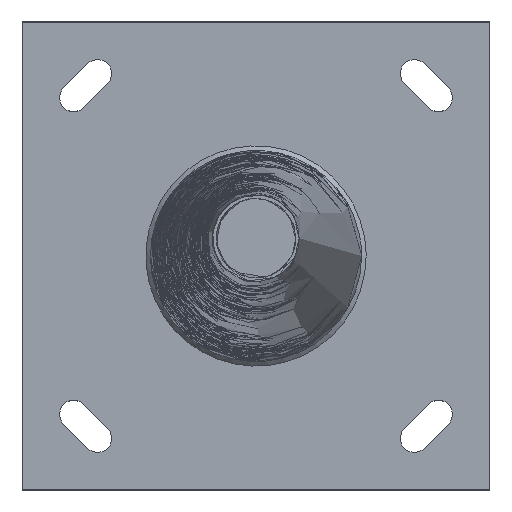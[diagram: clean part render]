
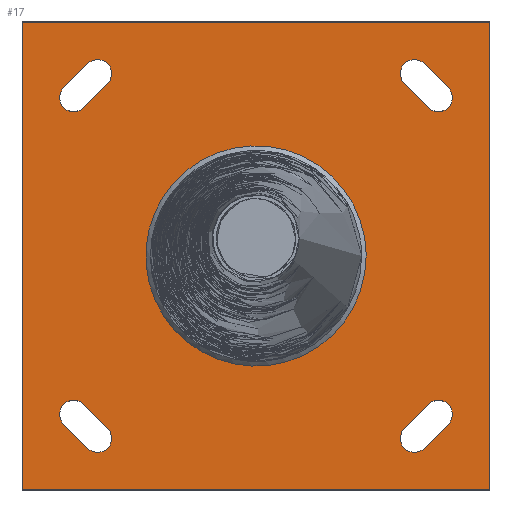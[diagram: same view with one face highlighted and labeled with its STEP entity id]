
A CAD part, top view. The second image highlights one B-rep face of the part: STEP entity #17.
In plain terms, the highlighted planar face has unit normal (0, 0, 1).
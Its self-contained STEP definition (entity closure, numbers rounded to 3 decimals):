
#17 = ADVANCED_FACE('',(#18,#57,#91,#127,#163,#199),#235,.T.);
#18 = FACE_BOUND('',#19,.T.);
#19 = EDGE_LOOP('',(#20));
#20 = ORIENTED_EDGE('',*,*,#21,.T.);
#21 = EDGE_CURVE('',#22,#22,#24,.T.);
#22 = VERTEX_POINT('',#23);
#23 = CARTESIAN_POINT('',(96.969,0.,5.));
#24 = B_SPLINE_CURVE_WITH_KNOTS('',11,(#25,#26,#27,#28,#29,#30,#31,#32,
    #33,#34,#35,#36,#37,#38,#39,#40,#41,#42,#43,#44,#45,#46,#47,#48,#49,
    #50,#51,#52,#53,#54,#55,#56),.UNSPECIFIED.,.T.,.F.,(12,10,10,12),(
    0.,146.094,292.131,584.144),
  .UNSPECIFIED.);
#25 = CARTESIAN_POINT('',(96.969,0.,5.));
#26 = CARTESIAN_POINT('',(96.969,-13.853,5.));
#27 = CARTESIAN_POINT('',(94.793,-27.706,5.)
  );
#28 = CARTESIAN_POINT('',(90.439,-41.177,5.
    ));
#29 = CARTESIAN_POINT('',(83.983,-53.895,5.)
  );
#30 = CARTESIAN_POINT('',(75.574,-65.475,5.
    ));
#31 = CARTESIAN_POINT('',(65.432,-75.619,5.
    ));
#32 = CARTESIAN_POINT('',(53.838,-84.015,5.
    ));
#33 = CARTESIAN_POINT('',(41.121,-90.466,5.
    ));
#34 = CARTESIAN_POINT('',(27.646,-94.81,5.
    ));
#35 = CARTESIAN_POINT('',(13.792,-96.978,5.));
#36 = CARTESIAN_POINT('',(-13.908,-96.961,5.));
#37 = CARTESIAN_POINT('',(-27.754,-94.777,5.
    ));
#38 = CARTESIAN_POINT('',(-41.219,-90.418,5.
    ));
#39 = CARTESIAN_POINT('',(-53.923,-83.959,5.
    ));
#40 = CARTESIAN_POINT('',(-65.504,-75.55,5.
    ));
#41 = CARTESIAN_POINT('',(-75.632,-65.409,5.)
  );
#42 = CARTESIAN_POINT('',(-84.027,-53.817,5.
    ));
#43 = CARTESIAN_POINT('',(-90.47,-41.105,5.
    ));
#44 = CARTESIAN_POINT('',(-94.812,-27.635,5.)
  );
#45 = CARTESIAN_POINT('',(-96.978,-13.786,5.));
#46 = CARTESIAN_POINT('',(-96.952,27.75,5.));
#47 = CARTESIAN_POINT('',(-88.238,55.433,5.
    ));
#48 = CARTESIAN_POINT('',(-70.828,80.076,5.
    ));
#49 = CARTESIAN_POINT('',(-45.917,98.643,5.)
  );
#50 = CARTESIAN_POINT('',(-15.889,108.638,5.
    ));
#51 = CARTESIAN_POINT('',(15.958,108.627,5.)
  );
#52 = CARTESIAN_POINT('',(45.98,98.614,5.)
  );
#53 = CARTESIAN_POINT('',(70.878,80.032,5.
    ));
#54 = CARTESIAN_POINT('',(88.273,55.377,5.
    ));
#55 = CARTESIAN_POINT('',(96.969,27.689,5.)
  );
#56 = CARTESIAN_POINT('',(96.969,0.,5.));
#57 = FACE_BOUND('',#58,.T.);
#58 = EDGE_LOOP('',(#59,#69,#77,#85));
#59 = ORIENTED_EDGE('',*,*,#60,.T.);
#60 = EDGE_CURVE('',#61,#63,#65,.T.);
#61 = VERTEX_POINT('',#62);
#62 = CARTESIAN_POINT('',(-206.,206.,5.));
#63 = VERTEX_POINT('',#64);
#64 = CARTESIAN_POINT('',(-206.,-206.,5.));
#65 = LINE('',#66,#67);
#66 = CARTESIAN_POINT('',(-206.,206.,5.));
#67 = VECTOR('',#68,1.);
#68 = DIRECTION('',(0.,-1.,0.));
#69 = ORIENTED_EDGE('',*,*,#70,.T.);
#70 = EDGE_CURVE('',#63,#71,#73,.T.);
#71 = VERTEX_POINT('',#72);
#72 = CARTESIAN_POINT('',(206.,-206.,5.));
#73 = LINE('',#74,#75);
#74 = CARTESIAN_POINT('',(-206.,-206.,5.));
#75 = VECTOR('',#76,1.);
#76 = DIRECTION('',(1.,0.,0.));
#77 = ORIENTED_EDGE('',*,*,#78,.T.);
#78 = EDGE_CURVE('',#71,#79,#81,.T.);
#79 = VERTEX_POINT('',#80);
#80 = CARTESIAN_POINT('',(206.,206.,5.));
#81 = LINE('',#82,#83);
#82 = CARTESIAN_POINT('',(206.,-206.,5.));
#83 = VECTOR('',#84,1.);
#84 = DIRECTION('',(0.,1.,0.));
#85 = ORIENTED_EDGE('',*,*,#86,.T.);
#86 = EDGE_CURVE('',#79,#61,#87,.T.);
#87 = LINE('',#88,#89);
#88 = CARTESIAN_POINT('',(206.,206.,5.));
#89 = VECTOR('',#90,1.);
#90 = DIRECTION('',(-1.,0.,0.));
#91 = FACE_BOUND('',#92,.T.);
#92 = EDGE_LOOP('',(#93,#104,#112,#121));
#93 = ORIENTED_EDGE('',*,*,#94,.F.);
#94 = EDGE_CURVE('',#95,#97,#99,.T.);
#95 = VERTEX_POINT('',#96);
#96 = CARTESIAN_POINT('',(-151.768,-130.555,5.));
#97 = VERTEX_POINT('',#98);
#98 = CARTESIAN_POINT('',(-169.445,-148.232,5.));
#99 = CIRCLE('',#100,12.5);
#100 = AXIS2_PLACEMENT_3D('',#101,#102,#103);
#101 = CARTESIAN_POINT('',(-160.607,-139.393,5.));
#102 = DIRECTION('',(0.,-0.,1.));
#103 = DIRECTION('',(0.,1.,0.));
#104 = ORIENTED_EDGE('',*,*,#105,.T.);
#105 = EDGE_CURVE('',#95,#106,#108,.T.);
#106 = VERTEX_POINT('',#107);
#107 = CARTESIAN_POINT('',(-130.555,-151.768,5.));
#108 = LINE('',#109,#110);
#109 = CARTESIAN_POINT('',(-151.768,-130.555,5.));
#110 = VECTOR('',#111,1.);
#111 = DIRECTION('',(0.707,-0.707,0.));
#112 = ORIENTED_EDGE('',*,*,#113,.F.);
#113 = EDGE_CURVE('',#114,#106,#116,.T.);
#114 = VERTEX_POINT('',#115);
#115 = CARTESIAN_POINT('',(-148.232,-169.445,5.));
#116 = CIRCLE('',#117,12.5);
#117 = AXIS2_PLACEMENT_3D('',#118,#119,#120);
#118 = CARTESIAN_POINT('',(-139.393,-160.607,5.));
#119 = DIRECTION('',(0.,-0.,1.));
#120 = DIRECTION('',(0.,1.,0.));
#121 = ORIENTED_EDGE('',*,*,#122,.F.);
#122 = EDGE_CURVE('',#97,#114,#123,.T.);
#123 = LINE('',#124,#125);
#124 = CARTESIAN_POINT('',(-169.445,-148.232,5.));
#125 = VECTOR('',#126,1.);
#126 = DIRECTION('',(0.707,-0.707,0.));
#127 = FACE_BOUND('',#128,.T.);
#128 = EDGE_LOOP('',(#129,#140,#148,#157));
#129 = ORIENTED_EDGE('',*,*,#130,.F.);
#130 = EDGE_CURVE('',#131,#133,#135,.T.);
#131 = VERTEX_POINT('',#132);
#132 = CARTESIAN_POINT('',(130.555,-151.768,5.));
#133 = VERTEX_POINT('',#134);
#134 = CARTESIAN_POINT('',(148.232,-169.445,5.));
#135 = CIRCLE('',#136,12.5);
#136 = AXIS2_PLACEMENT_3D('',#137,#138,#139);
#137 = CARTESIAN_POINT('',(139.393,-160.607,5.));
#138 = DIRECTION('',(0.,0.,1.));
#139 = DIRECTION('',(-1.,0.,0.));
#140 = ORIENTED_EDGE('',*,*,#141,.T.);
#141 = EDGE_CURVE('',#131,#142,#144,.T.);
#142 = VERTEX_POINT('',#143);
#143 = CARTESIAN_POINT('',(151.768,-130.555,5.));
#144 = LINE('',#145,#146);
#145 = CARTESIAN_POINT('',(130.555,-151.768,5.));
#146 = VECTOR('',#147,1.);
#147 = DIRECTION('',(0.707,0.707,0.));
#148 = ORIENTED_EDGE('',*,*,#149,.F.);
#149 = EDGE_CURVE('',#150,#142,#152,.T.);
#150 = VERTEX_POINT('',#151);
#151 = CARTESIAN_POINT('',(169.445,-148.232,5.));
#152 = CIRCLE('',#153,12.5);
#153 = AXIS2_PLACEMENT_3D('',#154,#155,#156);
#154 = CARTESIAN_POINT('',(160.607,-139.393,5.));
#155 = DIRECTION('',(0.,0.,1.));
#156 = DIRECTION('',(-1.,0.,0.));
#157 = ORIENTED_EDGE('',*,*,#158,.F.);
#158 = EDGE_CURVE('',#133,#150,#159,.T.);
#159 = LINE('',#160,#161);
#160 = CARTESIAN_POINT('',(148.232,-169.445,5.));
#161 = VECTOR('',#162,1.);
#162 = DIRECTION('',(0.707,0.707,0.));
#163 = FACE_BOUND('',#164,.T.);
#164 = EDGE_LOOP('',(#165,#176,#184,#193));
#165 = ORIENTED_EDGE('',*,*,#166,.F.);
#166 = EDGE_CURVE('',#167,#169,#171,.T.);
#167 = VERTEX_POINT('',#168);
#168 = CARTESIAN_POINT('',(-130.555,151.768,5.));
#169 = VERTEX_POINT('',#170);
#170 = CARTESIAN_POINT('',(-148.232,169.445,5.));
#171 = CIRCLE('',#172,12.5);
#172 = AXIS2_PLACEMENT_3D('',#173,#174,#175);
#173 = CARTESIAN_POINT('',(-139.393,160.607,5.));
#174 = DIRECTION('',(0.,0.,1.));
#175 = DIRECTION('',(1.,0.,0.));
#176 = ORIENTED_EDGE('',*,*,#177,.T.);
#177 = EDGE_CURVE('',#167,#178,#180,.T.);
#178 = VERTEX_POINT('',#179);
#179 = CARTESIAN_POINT('',(-151.768,130.555,5.));
#180 = LINE('',#181,#182);
#181 = CARTESIAN_POINT('',(-130.555,151.768,5.));
#182 = VECTOR('',#183,1.);
#183 = DIRECTION('',(-0.707,-0.707,0.));
#184 = ORIENTED_EDGE('',*,*,#185,.F.);
#185 = EDGE_CURVE('',#186,#178,#188,.T.);
#186 = VERTEX_POINT('',#187);
#187 = CARTESIAN_POINT('',(-169.445,148.232,5.));
#188 = CIRCLE('',#189,12.5);
#189 = AXIS2_PLACEMENT_3D('',#190,#191,#192);
#190 = CARTESIAN_POINT('',(-160.607,139.393,5.));
#191 = DIRECTION('',(0.,0.,1.));
#192 = DIRECTION('',(1.,0.,0.));
#193 = ORIENTED_EDGE('',*,*,#194,.F.);
#194 = EDGE_CURVE('',#169,#186,#195,.T.);
#195 = LINE('',#196,#197);
#196 = CARTESIAN_POINT('',(-148.232,169.445,5.));
#197 = VECTOR('',#198,1.);
#198 = DIRECTION('',(-0.707,-0.707,0.));
#199 = FACE_BOUND('',#200,.T.);
#200 = EDGE_LOOP('',(#201,#212,#220,#229));
#201 = ORIENTED_EDGE('',*,*,#202,.F.);
#202 = EDGE_CURVE('',#203,#205,#207,.T.);
#203 = VERTEX_POINT('',#204);
#204 = CARTESIAN_POINT('',(151.768,130.555,5.));
#205 = VERTEX_POINT('',#206);
#206 = CARTESIAN_POINT('',(169.445,148.232,5.));
#207 = CIRCLE('',#208,12.5);
#208 = AXIS2_PLACEMENT_3D('',#209,#210,#211);
#209 = CARTESIAN_POINT('',(160.607,139.393,5.));
#210 = DIRECTION('',(0.,0.,1.));
#211 = DIRECTION('',(0.,-1.,0.));
#212 = ORIENTED_EDGE('',*,*,#213,.T.);
#213 = EDGE_CURVE('',#203,#214,#216,.T.);
#214 = VERTEX_POINT('',#215);
#215 = CARTESIAN_POINT('',(130.555,151.768,5.));
#216 = LINE('',#217,#218);
#217 = CARTESIAN_POINT('',(151.768,130.555,5.));
#218 = VECTOR('',#219,1.);
#219 = DIRECTION('',(-0.707,0.707,0.));
#220 = ORIENTED_EDGE('',*,*,#221,.F.);
#221 = EDGE_CURVE('',#222,#214,#224,.T.);
#222 = VERTEX_POINT('',#223);
#223 = CARTESIAN_POINT('',(148.232,169.445,5.));
#224 = CIRCLE('',#225,12.5);
#225 = AXIS2_PLACEMENT_3D('',#226,#227,#228);
#226 = CARTESIAN_POINT('',(139.393,160.607,5.));
#227 = DIRECTION('',(0.,0.,1.));
#228 = DIRECTION('',(0.,-1.,0.));
#229 = ORIENTED_EDGE('',*,*,#230,.F.);
#230 = EDGE_CURVE('',#205,#222,#231,.T.);
#231 = LINE('',#232,#233);
#232 = CARTESIAN_POINT('',(169.445,148.232,5.));
#233 = VECTOR('',#234,1.);
#234 = DIRECTION('',(-0.707,0.707,0.));
#235 = PLANE('',#236);
#236 = AXIS2_PLACEMENT_3D('',#237,#238,#239);
#237 = CARTESIAN_POINT('',(0.,0.,5.));
#238 = DIRECTION('',(0.,0.,1.));
#239 = DIRECTION('',(1.,0.,0.));
